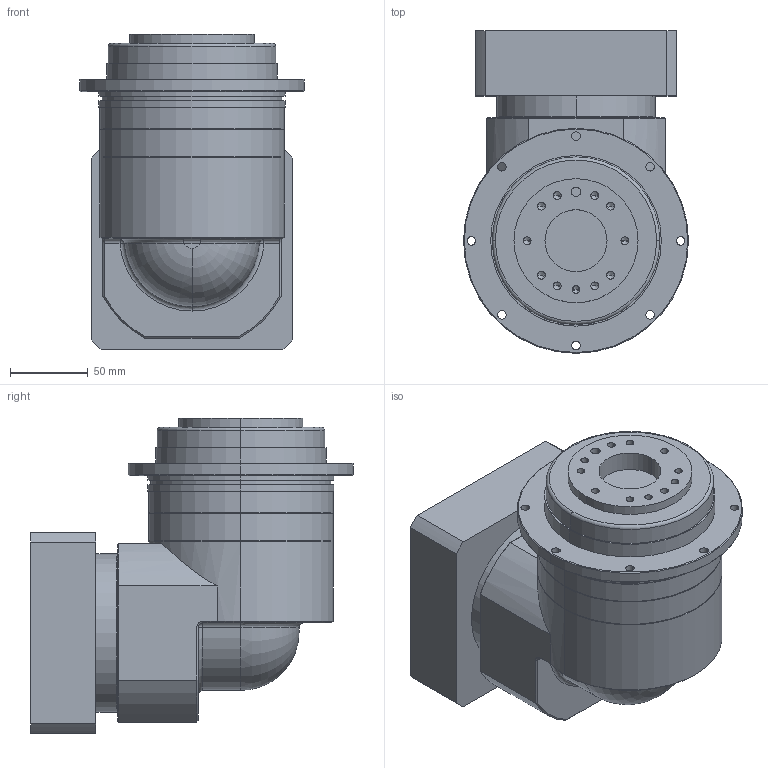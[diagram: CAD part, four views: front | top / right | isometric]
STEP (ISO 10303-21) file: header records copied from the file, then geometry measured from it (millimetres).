
FILE_DESCRIPTION (( 'STEP AP214' ), '1' );
FILE_NAME ('EVT110-L1-P2 24-110-145-M8.STEP', '2025-02-18T06:36:53', ( '微软用户' ), ( '微软中国' ), 'SwSTEP 2.0', 'SolidWorks 2021', '' );
FILE_SCHEMA (( 'AUTOMOTIVE_DESIGN' ));
Length unit declared in the file: millimetre
Products named in the file (1): EVT110-L1-P2 24-110-145-M8
Bounding box: 145 x 208 x 203.5 mm (x, y, z)
Volume: 2673490.2 mm3; surface area: 179503.7 mm2
Topology: 1 solids, 1 shells, 194 faces, 452 edges, 269 vertices
Faces by surface type: cylinder 95, plane 46, cone 43, torus 6, sphere 2, bspline 2
Entity records: 6067 total; most frequent: CARTESIAN_POINT 1304, DIRECTION 1023, ORIENTED_EDGE 860, EDGE_CURVE 430, AXIS2_PLACEMENT_3D 420, VERTEX_POINT 269, EDGE_LOOP 241, CIRCLE 227
